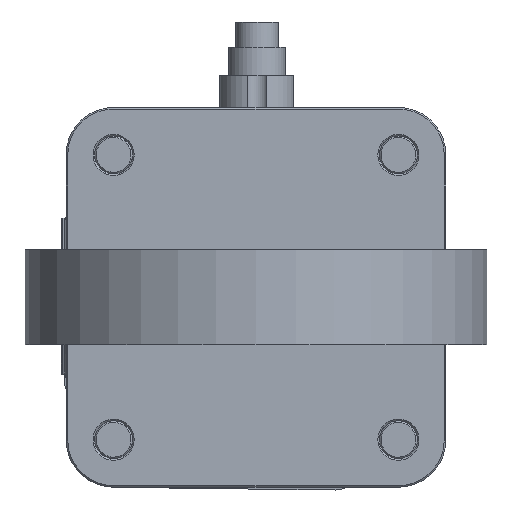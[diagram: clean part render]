
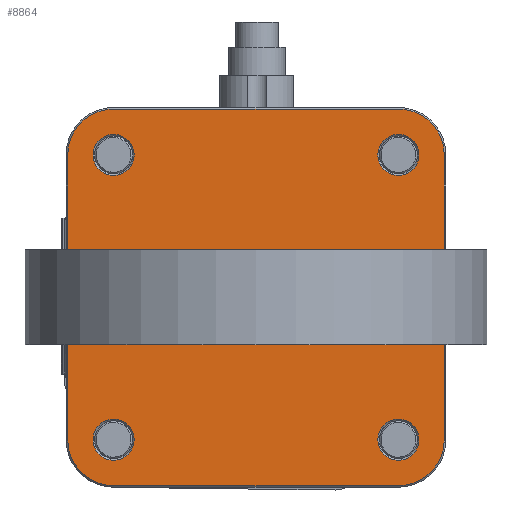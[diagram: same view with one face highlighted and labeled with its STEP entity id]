
A CAD part, front view. The second image highlights one B-rep face of the part: STEP entity #8864.
In plain terms, the highlighted planar face has unit normal (0, -1, 0).
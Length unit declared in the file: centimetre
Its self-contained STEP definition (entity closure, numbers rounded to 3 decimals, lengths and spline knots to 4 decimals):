
#1569=VECTOR('',#11799,1.);
#1570=VECTOR('',#11800,1.);
#1571=VECTOR('',#11801,1.);
#1572=VECTOR('',#11802,1.);
#1573=VECTOR('',#11803,1.);
#1574=VECTOR('',#11806,1.);
#1575=VECTOR('',#11809,1.);
#1576=VECTOR('',#11812,1.);
#1987=LINE('',#38599,#1569);
#1988=LINE('',#38602,#1570);
#1989=LINE('',#38604,#1571);
#1990=LINE('',#38606,#1572);
#1991=LINE('',#38607,#1573);
#1992=LINE('',#38612,#1574);
#1993=LINE('',#38616,#1575);
#1994=LINE('',#38620,#1576);
#2173=PLANE('',#9777);
#2846=VERTEX_POINT('',#38593);
#2847=VERTEX_POINT('',#38596);
#2848=VERTEX_POINT('',#38598);
#2849=VERTEX_POINT('',#38600);
#2850=VERTEX_POINT('',#38601);
#2851=VERTEX_POINT('',#38603);
#2852=VERTEX_POINT('',#38605);
#2853=VERTEX_POINT('',#38608);
#2854=VERTEX_POINT('',#38609);
#2855=VERTEX_POINT('',#38611);
#2856=VERTEX_POINT('',#38613);
#2857=VERTEX_POINT('',#38615);
#2858=VERTEX_POINT('',#38617);
#2859=VERTEX_POINT('',#38619);
#2860=VERTEX_POINT('',#38621);
#2861=VERTEX_POINT('',#38624);
#3376=CIRCLE('',#9776,0.325);
#3377=CIRCLE('',#9778,0.325);
#3378=CIRCLE('',#9779,0.325);
#3379=CIRCLE('',#9780,0.725);
#3380=CIRCLE('',#9781,0.725);
#3381=CIRCLE('',#9782,0.725);
#3382=CIRCLE('',#9783,0.725);
#3383=CIRCLE('',#9784,0.325);
#4476=EDGE_CURVE('',#2846,#2846,#3376,.T.);
#4477=EDGE_CURVE('',#2847,#2847,#3377,.T.);
#4478=EDGE_CURVE('',#2848,#2848,#3378,.T.);
#4479=EDGE_CURVE('',#2849,#2850,#1987,.T.);
#4480=EDGE_CURVE('',#2851,#2849,#1988,.T.);
#4481=EDGE_CURVE('',#2852,#2851,#1989,.T.);
#4482=EDGE_CURVE('',#2850,#2852,#1990,.T.);
#4483=EDGE_CURVE('',#2853,#2854,#1991,.T.);
#4484=EDGE_CURVE('',#2855,#2853,#3379,.T.);
#4485=EDGE_CURVE('',#2856,#2855,#1992,.T.);
#4486=EDGE_CURVE('',#2857,#2856,#3380,.T.);
#4487=EDGE_CURVE('',#2858,#2857,#1993,.T.);
#4488=EDGE_CURVE('',#2859,#2858,#3381,.T.);
#4489=EDGE_CURVE('',#2860,#2859,#1994,.T.);
#4490=EDGE_CURVE('',#2854,#2860,#3382,.T.);
#4491=EDGE_CURVE('',#2861,#2861,#3383,.T.);
#6686=ORIENTED_EDGE('',*,*,#4477,.F.);
#6687=ORIENTED_EDGE('',*,*,#4478,.F.);
#6688=ORIENTED_EDGE('',*,*,#4479,.F.);
#6689=ORIENTED_EDGE('',*,*,#4480,.F.);
#6690=ORIENTED_EDGE('',*,*,#4481,.F.);
#6691=ORIENTED_EDGE('',*,*,#4482,.F.);
#6692=ORIENTED_EDGE('',*,*,#4483,.F.);
#6693=ORIENTED_EDGE('',*,*,#4484,.F.);
#6694=ORIENTED_EDGE('',*,*,#4485,.F.);
#6695=ORIENTED_EDGE('',*,*,#4486,.F.);
#6696=ORIENTED_EDGE('',*,*,#4487,.F.);
#6697=ORIENTED_EDGE('',*,*,#4488,.F.);
#6698=ORIENTED_EDGE('',*,*,#4489,.F.);
#6699=ORIENTED_EDGE('',*,*,#4490,.F.);
#6700=ORIENTED_EDGE('',*,*,#4491,.F.);
#6701=ORIENTED_EDGE('',*,*,#4476,.F.);
#7539=EDGE_LOOP('',(#6686));
#7540=EDGE_LOOP('',(#6687));
#7541=EDGE_LOOP('',(#6688,#6689,#6690,#6691));
#7542=EDGE_LOOP('',(#6692,#6693,#6694,#6695,#6696,#6697,#6698,#6699));
#7543=EDGE_LOOP('',(#6700));
#7544=EDGE_LOOP('',(#6701));
#8253=FACE_BOUND('',#7539,.T.);
#8254=FACE_BOUND('',#7540,.T.);
#8255=FACE_BOUND('',#7541,.T.);
#8256=FACE_BOUND('',#7542,.T.);
#8257=FACE_BOUND('',#7543,.T.);
#8258=FACE_BOUND('',#7544,.T.);
#8864=ADVANCED_FACE('',(#8253,#8254,#8255,#8256,#8257,#8258),#2173,.F.);
#9776=AXIS2_PLACEMENT_3D('',#38592,#11792,#11793);
#9777=AXIS2_PLACEMENT_3D('',#38594,#11794,$);
#9778=AXIS2_PLACEMENT_3D('',#38595,#11795,#11796);
#9779=AXIS2_PLACEMENT_3D('',#38597,#11797,#11798);
#9780=AXIS2_PLACEMENT_3D('',#38610,#11804,#11805);
#9781=AXIS2_PLACEMENT_3D('',#38614,#11807,#11808);
#9782=AXIS2_PLACEMENT_3D('',#38618,#11810,#11811);
#9783=AXIS2_PLACEMENT_3D('',#38622,#11813,#11814);
#9784=AXIS2_PLACEMENT_3D('',#38623,#11815,#11816);
#11792=DIRECTION('',(0.,-1.,0.));
#11793=DIRECTION('',(-0.325,0.,0.));
#11794=DIRECTION('',(0.,1.,0.));
#11795=DIRECTION('',(0.,-1.,0.));
#11796=DIRECTION('',(-0.325,0.,0.));
#11797=DIRECTION('',(0.,-1.,0.));
#11798=DIRECTION('',(-0.325,0.,0.));
#11799=DIRECTION('',(0.,0.,1.));
#11800=DIRECTION('',(1.,0.,0.));
#11801=DIRECTION('',(0.,0.,-1.));
#11802=DIRECTION('',(-1.,0.,0.));
#11803=DIRECTION('',(1.,0.,0.));
#11804=DIRECTION('',(0.,1.,0.));
#11805=DIRECTION('',(-0.513,0.,0.513));
#11806=DIRECTION('',(0.,0.,1.));
#11807=DIRECTION('',(0.,1.,0.));
#11808=DIRECTION('',(-0.513,0.,-0.513));
#11809=DIRECTION('',(-1.,0.,0.));
#11810=DIRECTION('',(0.,1.,0.));
#11811=DIRECTION('',(0.513,0.,-0.513));
#11812=DIRECTION('',(0.,0.,-1.));
#11813=DIRECTION('',(0.,1.,0.));
#11814=DIRECTION('',(0.513,0.,0.513));
#11815=DIRECTION('',(0.,-1.,0.));
#11816=DIRECTION('',(-0.325,0.,0.));
#38592=CARTESIAN_POINT('',(1.7162,-8.0198,5.0385));
#38593=CARTESIAN_POINT('',(2.0412,-8.0198,5.0385));
#38594=CARTESIAN_POINT('',(-0.5338,-8.0198,2.7885));
#38595=CARTESIAN_POINT('',(1.7162,-8.0198,0.5385));
#38596=CARTESIAN_POINT('',(2.0412,-8.0198,0.5385));
#38597=CARTESIAN_POINT('',(-2.7838,-8.0198,5.0385));
#38598=CARTESIAN_POINT('',(-2.4588,-8.0198,5.0385));
#38599=CARTESIAN_POINT('',(0.8662,-8.0198,3.0885));
#38600=CARTESIAN_POINT('',(0.8662,-8.0198,2.0385));
#38601=CARTESIAN_POINT('',(0.8662,-8.0198,3.5385));
#38602=CARTESIAN_POINT('',(-0.5338,-8.0198,2.0385));
#38603=CARTESIAN_POINT('',(-1.9338,-8.0198,2.0385));
#38604=CARTESIAN_POINT('',(-1.9338,-8.0198,3.0885));
#38605=CARTESIAN_POINT('',(-1.9338,-8.0198,3.5385));
#38606=CARTESIAN_POINT('',(-0.5338,-8.0198,3.5385));
#38607=CARTESIAN_POINT('',(-0.5338,-8.0198,5.7635));
#38608=CARTESIAN_POINT('',(-2.7838,-8.0198,5.7635));
#38609=CARTESIAN_POINT('',(1.7162,-8.0198,5.7635));
#38610=CARTESIAN_POINT('',(-2.7838,-8.0198,5.0385));
#38611=CARTESIAN_POINT('',(-3.5088,-8.0198,5.0385));
#38612=CARTESIAN_POINT('',(-3.5088,-8.0198,2.7885));
#38613=CARTESIAN_POINT('',(-3.5088,-8.0198,0.5385));
#38614=CARTESIAN_POINT('',(-2.7838,-8.0198,0.5385));
#38615=CARTESIAN_POINT('',(-2.7838,-8.0198,-0.1865));
#38616=CARTESIAN_POINT('',(-0.5338,-8.0198,-0.1865));
#38617=CARTESIAN_POINT('',(1.7162,-8.0198,-0.1865));
#38618=CARTESIAN_POINT('',(1.7162,-8.0198,0.5385));
#38619=CARTESIAN_POINT('',(2.4412,-8.0198,0.5385));
#38620=CARTESIAN_POINT('',(2.4412,-8.0198,2.7885));
#38621=CARTESIAN_POINT('',(2.4412,-8.0198,5.0385));
#38622=CARTESIAN_POINT('',(1.7162,-8.0198,5.0385));
#38623=CARTESIAN_POINT('',(-2.7838,-8.0198,0.5385));
#38624=CARTESIAN_POINT('',(-2.4588,-8.0198,0.5385));
